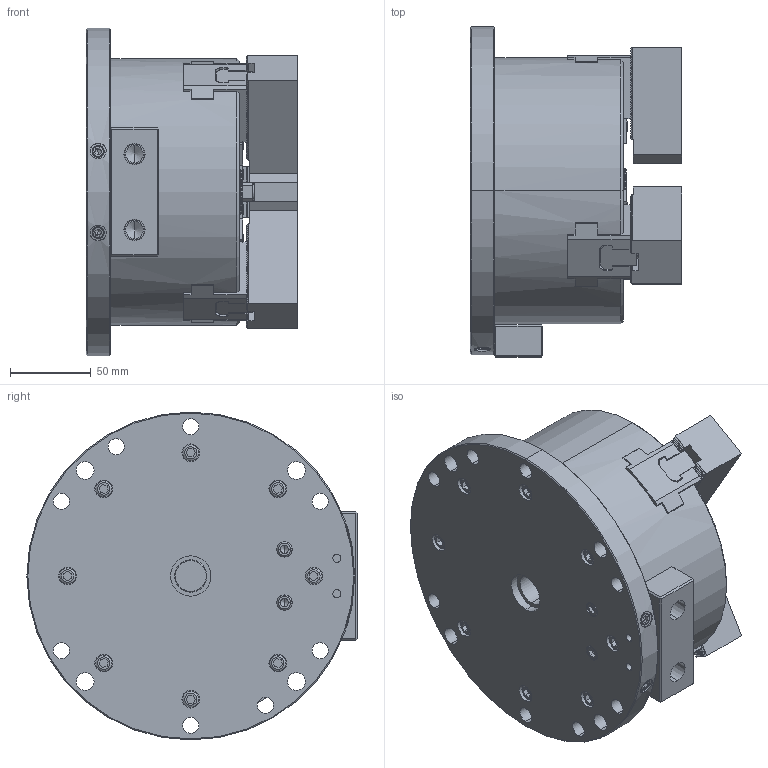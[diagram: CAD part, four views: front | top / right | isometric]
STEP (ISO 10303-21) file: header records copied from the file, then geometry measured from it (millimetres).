
FILE_DESCRIPTION (( 'STEP AP214' ), '1' );
FILE_NAME ('AS06_61P257186-3_UC.STEP', '2020-06-23T02:33:52', ( '' ), ( '' ), 'SwSTEP 2.0', 'SolidWorks 2017', '' );
FILE_SCHEMA (( 'AUTOMOTIVE_DESIGN' ));
Length unit declared in the file: millimetre
Products named in the file (5): Part1^61P222085-9_AS06_ASSY; 61P302540-2_SOFTJAW; 61P400822-4_TNUT; Bアナツキ M10×30; AS06_61P257186-3_UC
Assembly tree (13 placements, depth 2):
  AS06_61P257186-3_UC
    61P302540-2_SOFTJAW  x3
    61P400822-4_TNUT  x3
    Bアナツキ M10×30  x6
    Part1^61P222085-9_AS06_ASSY
Bounding box: 131.2 x 204.5 x 203 mm (x, y, z)
Volume: 2380390.2 mm3; surface area: 232500.7 mm2
Topology: 15 solids, 51 shells, 3428 faces, 9353 edges, 6127 vertices
Faces by surface type: plane 2136, cylinder 982, cone 204, bspline 92, torus 10, sphere 4
Entity records: 80787 total; most frequent: CARTESIAN_POINT 19113, ORIENTED_EDGE 13220, DIRECTION 12128, EDGE_CURVE 6610, VECTOR 4790, LINE 4790, VERTEX_POINT 4330, AXIS2_PLACEMENT_3D 3669
